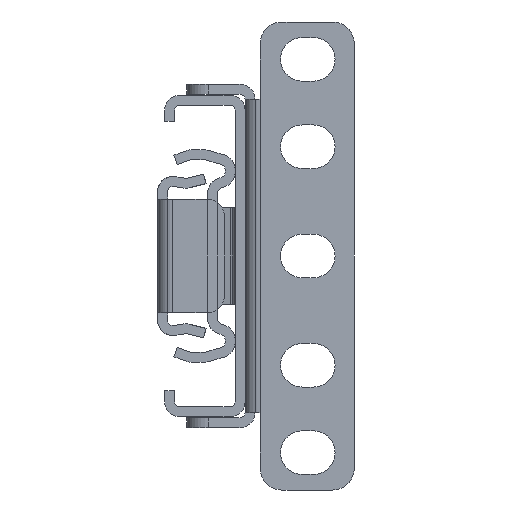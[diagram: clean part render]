
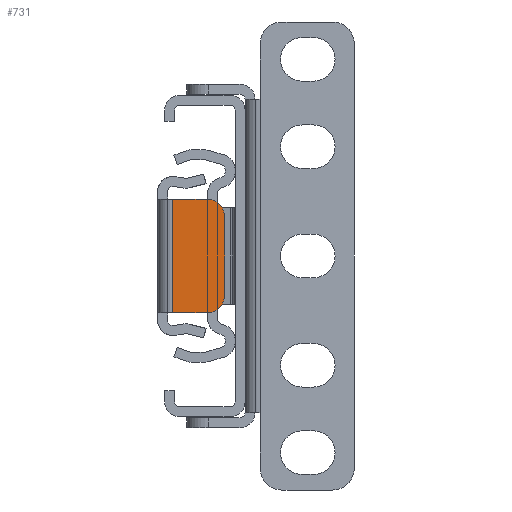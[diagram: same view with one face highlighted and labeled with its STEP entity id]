
A CAD part, front view. The second image highlights one B-rep face of the part: STEP entity #731.
In plain terms, the highlighted planar face has unit normal (0, -1, 0).
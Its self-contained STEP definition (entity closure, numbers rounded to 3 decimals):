
#731 = ADVANCED_FACE( '', ( #1293 ), #1294, .T. );
#1293 = FACE_OUTER_BOUND( '', #2260, .T. );
#1294 = PLANE( '', #2261 );
#2260 = EDGE_LOOP( '', ( #3728, #3729, #3730, #3731, #3732, #3733 ) );
#2261 = AXIS2_PLACEMENT_3D( '', #3734, #3735, #3736 );
#3728 = ORIENTED_EDGE( '', *, *, #4700, .T. );
#3729 = ORIENTED_EDGE( '', *, *, #4701, .T. );
#3730 = ORIENTED_EDGE( '', *, *, #4697, .T. );
#3731 = ORIENTED_EDGE( '', *, *, #4579, .T. );
#3732 = ORIENTED_EDGE( '', *, *, #4702, .T. );
#3733 = ORIENTED_EDGE( '', *, *, #4696, .T. );
#3734 = CARTESIAN_POINT( '', ( -8.255, -1.448, 1.195 ) );
#3735 = DIRECTION( '', ( 0., -1., 0. ) );
#3736 = DIRECTION( '', ( 0., 0., -1. ) );
#4579 = EDGE_CURVE( '', #5706, #5707, #5708, .T. );
#4696 = EDGE_CURVE( '', #5897, #5899, #5901, .T. );
#4697 = EDGE_CURVE( '', #5902, #5706, #5903, .T. );
#4700 = EDGE_CURVE( '', #5899, #5907, #5908, .T. );
#4701 = EDGE_CURVE( '', #5907, #5902, #5909, .T. );
#4702 = EDGE_CURVE( '', #5707, #5897, #5910, .T. );
#5706 = VERTEX_POINT( '', #6944 );
#5707 = VERTEX_POINT( '', #6945 );
#5708 = CIRCLE( '', #6946, 2.54 );
#5897 = VERTEX_POINT( '', #7252 );
#5899 = VERTEX_POINT( '', #7254 );
#5901 = LINE( '', #7256, #7257 );
#5902 = VERTEX_POINT( '', #7258 );
#5903 = LINE( '', #7259, #7260 );
#5907 = VERTEX_POINT( '', #7266 );
#5908 = LINE( '', #7267, #7268 );
#5909 = CIRCLE( '', #7269, 2.54 );
#5910 = LINE( '', #7270, #7271 );
#6944 = CARTESIAN_POINT( '', ( -5.715, -1.448, 9.728 ) );
#6945 = CARTESIAN_POINT( '', ( -8.255, -1.448, 7.188 ) );
#6946 = AXIS2_PLACEMENT_3D( '', #7835, #7836, #7837 );
#7252 = CARTESIAN_POINT( '', ( -8.255, -1.448, 2.184 ) );
#7254 = CARTESIAN_POINT( '', ( 8.255, -1.448, 2.184 ) );
#7256 = CARTESIAN_POINT( '', ( -8.255, -1.448, 2.184 ) );
#7257 = VECTOR( '', #8026, 1000. );
#7258 = CARTESIAN_POINT( '', ( 5.715, -1.448, 9.728 ) );
#7259 = CARTESIAN_POINT( '', ( 8.255, -1.448, 9.728 ) );
#7260 = VECTOR( '', #8027, 1000. );
#7266 = CARTESIAN_POINT( '', ( 8.255, -1.448, 7.188 ) );
#7267 = CARTESIAN_POINT( '', ( 8.255, -1.448, 1.195 ) );
#7268 = VECTOR( '', #8030, 1000. );
#7269 = AXIS2_PLACEMENT_3D( '', #8031, #8032, #8033 );
#7270 = CARTESIAN_POINT( '', ( -8.255, -1.448, 1.195 ) );
#7271 = VECTOR( '', #8034, 1000. );
#7835 = CARTESIAN_POINT( '', ( -5.715, -1.448, 7.188 ) );
#7836 = DIRECTION( '', ( 0., -1., 0. ) );
#7837 = DIRECTION( '', ( 0., 0., -1. ) );
#8026 = DIRECTION( '', ( 1., 0., 0. ) );
#8027 = DIRECTION( '', ( -1., 0., 0. ) );
#8030 = DIRECTION( '', ( 0., 0., 1. ) );
#8031 = CARTESIAN_POINT( '', ( 5.715, -1.448, 7.188 ) );
#8032 = DIRECTION( '', ( 0., -1., 0. ) );
#8033 = DIRECTION( '', ( 0., 0., -1. ) );
#8034 = DIRECTION( '', ( 0., 0., -1. ) );
